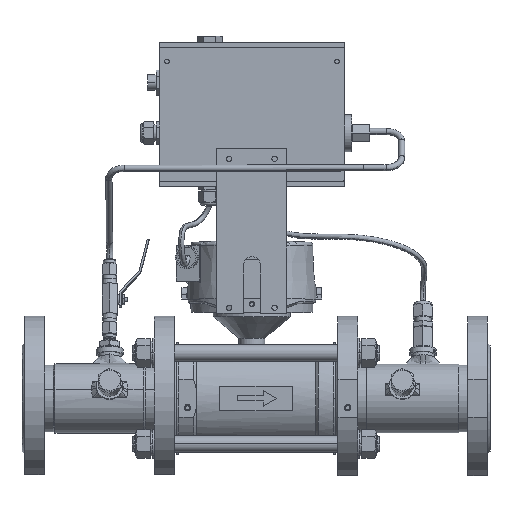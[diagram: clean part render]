
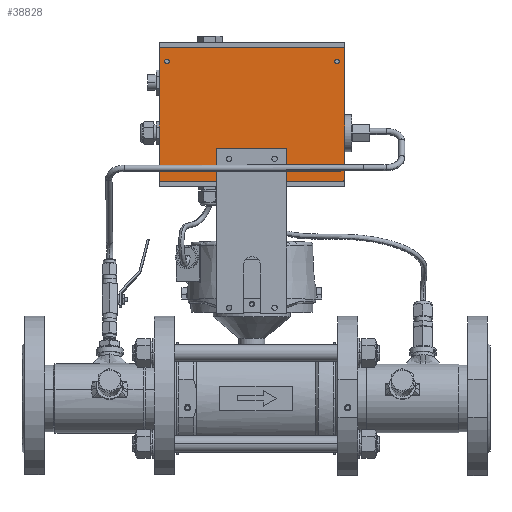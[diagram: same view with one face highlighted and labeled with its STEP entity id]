
A CAD part, top view. The second image highlights one B-rep face of the part: STEP entity #38828.
In plain terms, the highlighted planar face has unit normal (0, 0, 1) as drawn and (0, 0, -1) by its records, which use the part's own axes.
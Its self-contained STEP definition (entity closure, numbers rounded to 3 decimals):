
#38237=CARTESIAN_POINT('',(-82.5,51.5,0.));
#38238=DIRECTION('',(0.,0.,-1.));
#38239=DIRECTION('',(1.,0.,0.));
#38240=AXIS2_PLACEMENT_3D('',#38237,#38238,#38239);
#38245=CARTESIAN_POINT('',(-82.5,51.5,0.));
#38246=DIRECTION('',(0.,0.,-1.));
#38247=DIRECTION('',(-1.,0.,0.));
#38248=AXIS2_PLACEMENT_3D('',#38245,#38246,#38247);
#38253=CARTESIAN_POINT('',(82.5,51.5,0.));
#38254=DIRECTION('',(0.,0.,-1.));
#38255=DIRECTION('',(1.,0.,0.));
#38256=AXIS2_PLACEMENT_3D('',#38253,#38254,#38255);
#38261=CARTESIAN_POINT('',(82.5,51.5,0.));
#38262=DIRECTION('',(0.,0.,-1.));
#38263=DIRECTION('',(-1.,0.,0.));
#38264=AXIS2_PLACEMENT_3D('',#38261,#38262,#38263);
#38269=CARTESIAN_POINT('',(82.5,-51.5,0.));
#38270=DIRECTION('',(0.,0.,-1.));
#38271=DIRECTION('',(1.,0.,0.));
#38272=AXIS2_PLACEMENT_3D('',#38269,#38270,#38271);
#38277=CARTESIAN_POINT('',(82.5,-51.5,0.));
#38278=DIRECTION('',(0.,0.,-1.));
#38279=DIRECTION('',(-1.,0.,0.));
#38280=AXIS2_PLACEMENT_3D('',#38277,#38278,#38279);
#38285=CARTESIAN_POINT('',(-82.5,-51.5,0.));
#38286=DIRECTION('',(0.,0.,-1.));
#38287=DIRECTION('',(1.,0.,0.));
#38288=AXIS2_PLACEMENT_3D('',#38285,#38286,#38287);
#38293=CARTESIAN_POINT('',(-82.5,-51.5,0.));
#38294=DIRECTION('',(0.,0.,-1.));
#38295=DIRECTION('',(-1.,0.,0.));
#38296=AXIS2_PLACEMENT_3D('',#38293,#38294,#38295);
#38301=CARTESIAN_POINT('',(-88.,63.,0.));
#38302=DIRECTION('',(0.,0.,1.));
#38303=DIRECTION('',(0.,1.,0.));
#38304=AXIS2_PLACEMENT_3D('',#38301,#38302,#38303);
#38309=DIRECTION('',(0.,-1.,0.));
#38310=VECTOR('',#38309,126.);
#38311=CARTESIAN_POINT('',(-90.,63.,0.));
#38312=LINE('',#38311,#38310);
#38316=CARTESIAN_POINT('',(-88.,-63.,0.));
#38317=DIRECTION('',(0.,0.,1.));
#38318=DIRECTION('',(-1.,0.,0.));
#38319=AXIS2_PLACEMENT_3D('',#38316,#38317,#38318);
#38324=DIRECTION('',(1.,0.,0.));
#38325=VECTOR('',#38324,176.);
#38326=CARTESIAN_POINT('',(-88.,-65.,0.));
#38327=LINE('',#38326,#38325);
#38331=CARTESIAN_POINT('',(88.,-63.,0.));
#38332=DIRECTION('',(0.,0.,1.));
#38333=DIRECTION('',(0.,-1.,0.));
#38334=AXIS2_PLACEMENT_3D('',#38331,#38332,#38333);
#38339=DIRECTION('',(0.,1.,0.));
#38340=VECTOR('',#38339,126.);
#38341=CARTESIAN_POINT('',(90.,-63.,0.));
#38342=LINE('',#38341,#38340);
#38346=CARTESIAN_POINT('',(88.,63.,0.));
#38347=DIRECTION('',(0.,0.,1.));
#38348=DIRECTION('',(1.,0.,0.));
#38349=AXIS2_PLACEMENT_3D('',#38346,#38347,#38348);
#38354=DIRECTION('',(-1.,0.,0.));
#38355=VECTOR('',#38354,176.);
#38356=CARTESIAN_POINT('',(88.,65.,0.));
#38357=LINE('',#38356,#38355);
#38361=CARTESIAN_POINT('',(-22.,-43.,0.));
#38362=DIRECTION('',(0.,0.,-1.));
#38363=DIRECTION('',(1.,0.,0.));
#38364=AXIS2_PLACEMENT_3D('',#38361,#38362,#38363);
#38369=CARTESIAN_POINT('',(-22.,-43.,0.));
#38370=DIRECTION('',(0.,0.,-1.));
#38371=DIRECTION('',(-1.,0.,0.));
#38372=AXIS2_PLACEMENT_3D('',#38369,#38370,#38371);
#38377=CARTESIAN_POINT('',(22.,-43.,0.));
#38378=DIRECTION('',(0.,0.,-1.));
#38379=DIRECTION('',(1.,0.,0.));
#38380=AXIS2_PLACEMENT_3D('',#38377,#38378,#38379);
#38385=CARTESIAN_POINT('',(22.,-43.,0.));
#38386=DIRECTION('',(0.,0.,-1.));
#38387=DIRECTION('',(-1.,0.,0.));
#38388=AXIS2_PLACEMENT_3D('',#38385,#38386,#38387);
#38689=CARTESIAN_POINT('',(-80.25,51.5,0.));
#38690=CARTESIAN_POINT('',(-84.75,51.5,0.));
#38691=VERTEX_POINT('',#38689);
#38692=VERTEX_POINT('',#38690);
#38693=CARTESIAN_POINT('',(84.75,51.5,0.));
#38694=CARTESIAN_POINT('',(80.25,51.5,0.));
#38695=VERTEX_POINT('',#38693);
#38696=VERTEX_POINT('',#38694);
#38697=CARTESIAN_POINT('',(84.75,-51.5,0.));
#38698=CARTESIAN_POINT('',(80.25,-51.5,0.));
#38699=VERTEX_POINT('',#38697);
#38700=VERTEX_POINT('',#38698);
#38701=CARTESIAN_POINT('',(-80.25,-51.5,0.));
#38702=CARTESIAN_POINT('',(-84.75,-51.5,0.));
#38703=VERTEX_POINT('',#38701);
#38704=VERTEX_POINT('',#38702);
#38705=CARTESIAN_POINT('',(-90.,63.,0.));
#38706=CARTESIAN_POINT('',(-90.,-63.,0.));
#38707=VERTEX_POINT('',#38705);
#38708=VERTEX_POINT('',#38706);
#38709=CARTESIAN_POINT('',(-88.,-65.,0.));
#38710=CARTESIAN_POINT('',(88.,-65.,0.));
#38711=VERTEX_POINT('',#38709);
#38712=VERTEX_POINT('',#38710);
#38713=CARTESIAN_POINT('',(90.,-63.,0.));
#38714=CARTESIAN_POINT('',(90.,63.,0.));
#38715=VERTEX_POINT('',#38713);
#38716=VERTEX_POINT('',#38714);
#38717=CARTESIAN_POINT('',(88.,65.,0.));
#38718=CARTESIAN_POINT('',(-88.,65.,0.));
#38719=VERTEX_POINT('',#38717);
#38720=VERTEX_POINT('',#38718);
#38757=CARTESIAN_POINT('',(-19.25,-43.,0.));
#38758=CARTESIAN_POINT('',(-24.75,-43.,0.));
#38759=VERTEX_POINT('',#38757);
#38760=VERTEX_POINT('',#38758);
#38765=CARTESIAN_POINT('',(24.75,-43.,0.));
#38766=CARTESIAN_POINT('',(19.25,-43.,0.));
#38767=VERTEX_POINT('',#38765);
#38768=VERTEX_POINT('',#38766);
#38769=CARTESIAN_POINT('',(0.,0.,0.));
#38770=DIRECTION('',(0.,0.,1.));
#38771=DIRECTION('',(1.,0.,0.));
#38772=AXIS2_PLACEMENT_3D('',#38769,#38770,#38771);
#38773=PLANE('',#38772);
#38775=ORIENTED_EDGE('',*,*,#38774,.T.);
#38777=ORIENTED_EDGE('',*,*,#38776,.T.);
#38779=ORIENTED_EDGE('',*,*,#38778,.T.);
#38781=ORIENTED_EDGE('',*,*,#38780,.T.);
#38783=ORIENTED_EDGE('',*,*,#38782,.T.);
#38785=ORIENTED_EDGE('',*,*,#38784,.T.);
#38787=ORIENTED_EDGE('',*,*,#38786,.T.);
#38789=ORIENTED_EDGE('',*,*,#38788,.T.);
#38790=EDGE_LOOP('',(#38775,#38777,#38779,#38781,#38783,#38785,#38787,#38789));
#38791=FACE_OUTER_BOUND('',#38790,.F.);
#38793=ORIENTED_EDGE('',*,*,#38792,.T.);
#38795=ORIENTED_EDGE('',*,*,#38794,.T.);
#38796=EDGE_LOOP('',(#38793,#38795));
#38797=FACE_BOUND('',#38796,.F.);
#38799=ORIENTED_EDGE('',*,*,#38798,.T.);
#38801=ORIENTED_EDGE('',*,*,#38800,.T.);
#38802=EDGE_LOOP('',(#38799,#38801));
#38803=FACE_BOUND('',#38802,.F.);
#38805=ORIENTED_EDGE('',*,*,#38804,.T.);
#38807=ORIENTED_EDGE('',*,*,#38806,.T.);
#38808=EDGE_LOOP('',(#38805,#38807));
#38809=FACE_BOUND('',#38808,.F.);
#38811=ORIENTED_EDGE('',*,*,#38810,.T.);
#38813=ORIENTED_EDGE('',*,*,#38812,.T.);
#38814=EDGE_LOOP('',(#38811,#38813));
#38815=FACE_BOUND('',#38814,.F.);
#38817=ORIENTED_EDGE('',*,*,#38816,.T.);
#38819=ORIENTED_EDGE('',*,*,#38818,.T.);
#38820=EDGE_LOOP('',(#38817,#38819));
#38821=FACE_BOUND('',#38820,.F.);
#38823=ORIENTED_EDGE('',*,*,#38822,.T.);
#38825=ORIENTED_EDGE('',*,*,#38824,.T.);
#38826=EDGE_LOOP('',(#38823,#38825));
#38827=FACE_BOUND('',#38826,.F.);
#38241=CIRCLE('',#38240,2.25);
#38249=CIRCLE('',#38248,2.25);
#38257=CIRCLE('',#38256,2.25);
#38265=CIRCLE('',#38264,2.25);
#38273=CIRCLE('',#38272,2.25);
#38281=CIRCLE('',#38280,2.25);
#38289=CIRCLE('',#38288,2.25);
#38297=CIRCLE('',#38296,2.25);
#38305=CIRCLE('',#38304,2.);
#38320=CIRCLE('',#38319,2.);
#38335=CIRCLE('',#38334,2.);
#38350=CIRCLE('',#38349,2.);
#38365=CIRCLE('',#38364,2.75);
#38373=CIRCLE('',#38372,2.75);
#38381=CIRCLE('',#38380,2.75);
#38389=CIRCLE('',#38388,2.75);
#38774=EDGE_CURVE('',#38720,#38707,#38305,.T.);
#38776=EDGE_CURVE('',#38707,#38708,#38312,.T.);
#38778=EDGE_CURVE('',#38708,#38711,#38320,.T.);
#38780=EDGE_CURVE('',#38711,#38712,#38327,.T.);
#38782=EDGE_CURVE('',#38712,#38715,#38335,.T.);
#38784=EDGE_CURVE('',#38715,#38716,#38342,.T.);
#38786=EDGE_CURVE('',#38716,#38719,#38350,.T.);
#38788=EDGE_CURVE('',#38719,#38720,#38357,.T.);
#38792=EDGE_CURVE('',#38695,#38696,#38257,.T.);
#38794=EDGE_CURVE('',#38696,#38695,#38265,.T.);
#38798=EDGE_CURVE('',#38699,#38700,#38273,.T.);
#38800=EDGE_CURVE('',#38700,#38699,#38281,.T.);
#38804=EDGE_CURVE('',#38703,#38704,#38289,.T.);
#38806=EDGE_CURVE('',#38704,#38703,#38297,.T.);
#38810=EDGE_CURVE('',#38691,#38692,#38241,.T.);
#38812=EDGE_CURVE('',#38692,#38691,#38249,.T.);
#38816=EDGE_CURVE('',#38759,#38760,#38365,.T.);
#38818=EDGE_CURVE('',#38760,#38759,#38373,.T.);
#38822=EDGE_CURVE('',#38767,#38768,#38381,.T.);
#38824=EDGE_CURVE('',#38768,#38767,#38389,.T.);
#38828=ADVANCED_FACE('',(#38791,#38797,#38803,#38809,#38815,#38821,#38827),
#38773,.F.);
